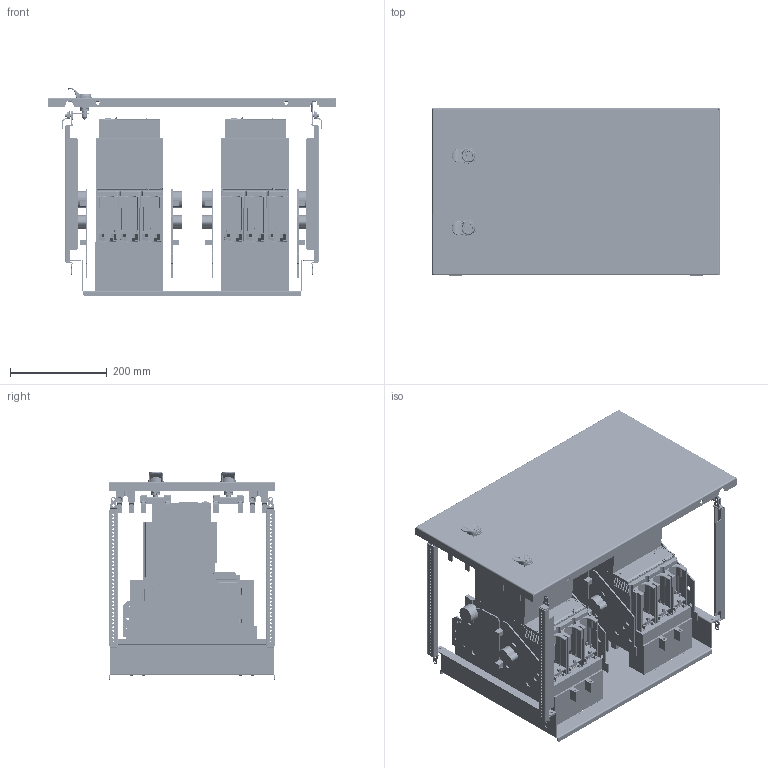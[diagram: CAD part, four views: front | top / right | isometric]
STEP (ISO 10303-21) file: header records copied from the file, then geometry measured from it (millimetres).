
FILE_DESCRIPTION(('CAx-IF Rec.Pracs.---Model Styling and Organization---1.2---2011-12-15','CAx-IF Rec.Pracs.---Geometric and Assembly Validation Properties---4.1---2014-06-16','CAx-IF Rec.Pracs.---PMI Polyline Presentation---2.0---2013-05-24'),'2;1');
FILE_NAME('R5PKEB7V62816 (W-MO).stp','2021-07-29T02:40:45+03:00',(''),(''),'STEP Interface 4.4 by CT CoreTechnologie','3D_Evolution4.4 by CT CoreTechnologie','');
FILE_SCHEMA(('AUTOMOTIVE_DESIGN { 1 0 10303 214 1 1 1 1 }'));
Length unit declared in the file: millimetre
Products named in the file (1): R5PKEB7V62816 (W-MO)
Bounding box: 594 x 345 x 430.24 mm (x, y, z)
Surface area: 3657087.5 mm2 (no closed solid volume)
Topology: 0 solids, 166 shells, 14693 faces, 42762 edges, 28044 vertices
Faces by surface type: plane 8876, cylinder 4498, bspline 1319
Entity records: 512950 total; most frequent: CARTESIAN_POINT 121535, ORIENTED_EDGE 84932, DIRECTION 78500, EDGE_CURVE 42526, VECTOR 31474, LINE 31474, VERTEX_POINT 28084, AXIS2_PLACEMENT_3D 23513
